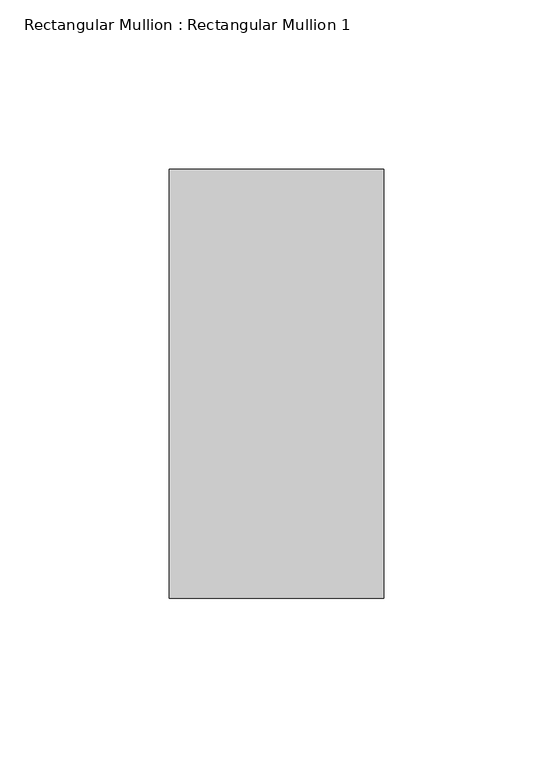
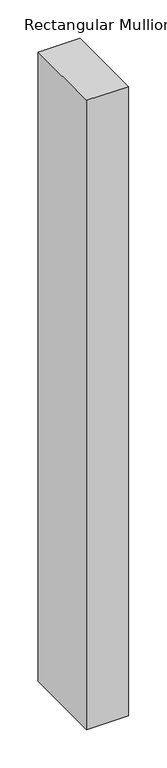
"""IFC4 building model written with IfcOpenShell, lengths in millimetres: member geometry, Rectangular Mullion : Rectangular Mullion 1."""

from ifc_helpers import new_model, si_unit, frame, origin, place, context, project, spatial, polyline, outline, extrude, source, transform, mapped, element, save


def rectangular_mullion_rectangular_mullion_1_e94b0608(model_context):
    return source(origin(), model_context, "Body", "SweptSolid", [
        extrude(outline(polyline([(31.75, 63.5), (31.75, -63.5), (-31.75, -63.5), (-31.75, 63.5), (31.75, 63.5)])), frame((0.0, 0.0, -1004.3583333), z_axis=(0.0, 0.0, 1.0), x_axis=(1.0, 0.0, 0.0)), (0.0, 0.0, 1.0), 1004.3583333),
    ])


if __name__ == "__main__":
    model = new_model("IFC4")
    model_context = context("Model", 3, world=origin())
    ifc_project = project(units=[si_unit("LENGTHUNIT", "METRE", prefix="MILLI")], contexts=[model_context])
    site = spatial("IfcSite", under=ifc_project)
    building = spatial("IfcBuilding", under=site)
    placement = place(None, origin())
    rectangular_mullion_rectangular_mullion_1_shape = rectangular_mullion_rectangular_mullion_1_e94b0608(model_context)
    element("IfcMember", 1, ObjectType="Rectangular Mullion : Rectangular Mullion 1", at=placement, inside=building, context=model_context, shape_type="MappedRepresentation", body=[
        mapped(rectangular_mullion_rectangular_mullion_1_shape, transform((0.0, 0.0, 0.0), x_axis=(1.0, 0.0, 0.0), y_axis=(0.0, 1.0, 0.0), z_axis=(0.0, 0.0, 1.0))),
    ])
    save(model, "model.ifc")
